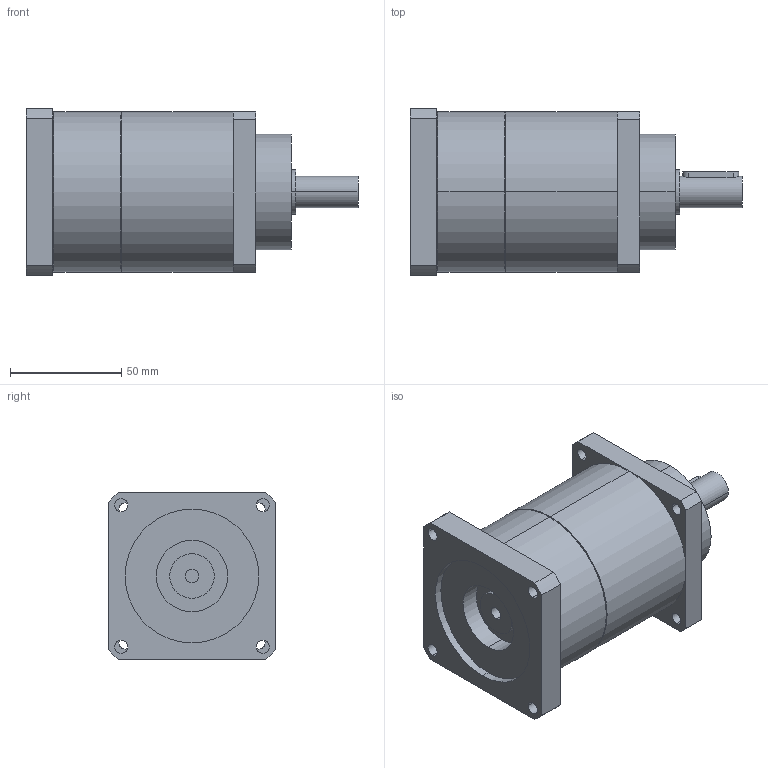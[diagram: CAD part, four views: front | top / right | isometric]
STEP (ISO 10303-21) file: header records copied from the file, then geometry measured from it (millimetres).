
FILE_DESCRIPTION(('CoCreate Modeling STEP Export'),'2;1');
FILE_NAME('GPT75_ig-9-12-16-20-25-28-35-40-50-70-100_14_B5T_6_P15.stp','2014-08-27T13:40:07',(''),(''),'CoCreate Modeling STEP processor for AP214 (Solid Model)','CoCreate Modeling 16.00C 25-Feb-2009 (C) Parametric Technology GmbH','');
FILE_SCHEMA(('AUTOMOTIVE_DESIGN { 1 0 10303 214 1 1 1 1 }'));
Length unit declared in the file: millimetre
Products named in the file (2): GPT75_ig-9-12-16-20-25-28-35-40-50-70-100_14_B5T_6_P15
Assembly tree (1 placements, depth 2):
  GPT75_ig-9-12-16-20-25-28-35-40-50-70-100_14_B5T_6_P15
    GPT75_ig-9-12-16-20-25-28-35-40-50-70-100_14_B5T_6_P15
Bounding box: 149 x 75 x 75 mm (x, y, z)
Volume: 468571.2 mm3; surface area: 46056.2 mm2
Topology: 1 solids, 1 shells, 77 faces, 194 edges, 129 vertices
Faces by surface type: cylinder 46, plane 27, cone 4
Entity records: 2484 total; most frequent: CARTESIAN_POINT 719, ORIENTED_EDGE 388, DIRECTION 320, EDGE_CURVE 194, VERTEX_POINT 129, AXIS2_PLACEMENT_3D 118, EDGE_LOOP 103, VECTOR 84
